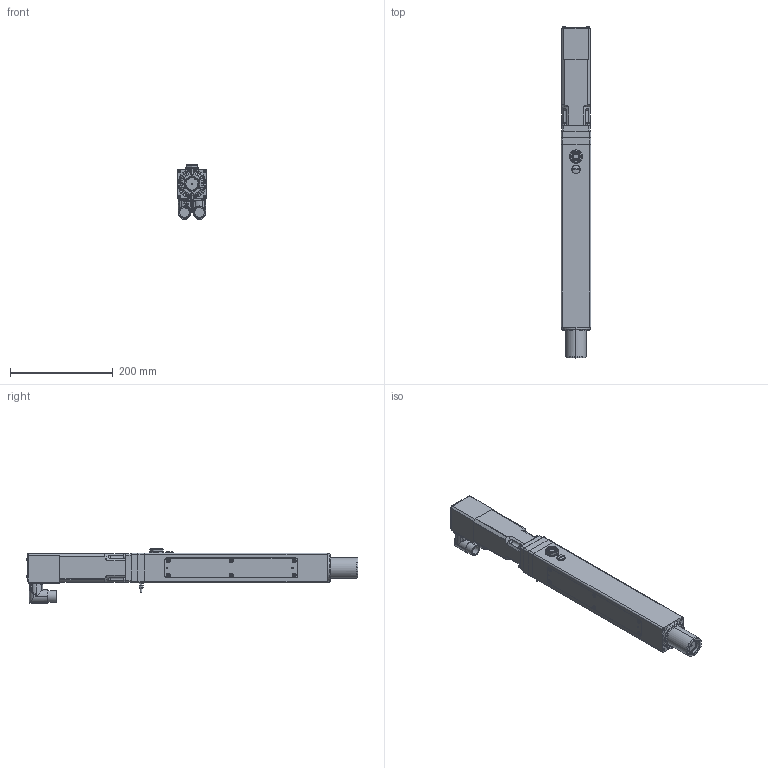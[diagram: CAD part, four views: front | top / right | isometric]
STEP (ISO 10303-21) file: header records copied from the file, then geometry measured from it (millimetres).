
FILE_DESCRIPTION (( 'STEP AP214' ), '1' );
FILE_NAME ('KM RLWIK001D-020-020HG0.STEP', '2023-12-20T13:26:42', ( '' ), ( '' ), 'SwSTEP 2.0', 'SolidWorks 2021', '' );
FILE_SCHEMA (( 'AUTOMOTIVE_DESIGN' ));
Length unit declared in the file: millimetre
Products named in the file (1): KM RLWIK001D-020-020HG0
Bounding box: 58 x 647.07 x 105.88 mm (x, y, z)
Volume: 1667593.7 mm3; surface area: 419717.3 mm2
Topology: 50 solids, 50 shells, 2373 faces, 5545 edges, 3355 vertices
Faces by surface type: plane 1034, cylinder 721, cone 449, bspline 120, torus 47, sphere 2
Entity records: 98201 total; most frequent: CARTESIAN_POINT 18071, DIRECTION 11283, ORIENTED_EDGE 10898, EDGE_CURVE 5449, AXIS2_PLACEMENT_3D 4335, VERTEX_POINT 3355, EDGE_LOOP 2708, LINE 2613
